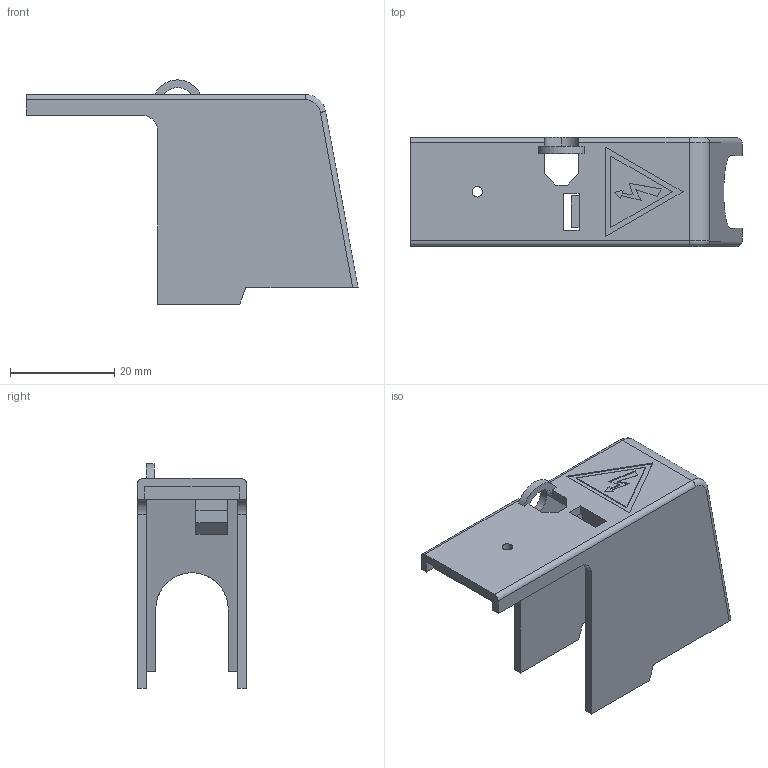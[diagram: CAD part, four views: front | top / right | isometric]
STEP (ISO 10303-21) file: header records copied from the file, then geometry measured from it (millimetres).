
FILE_DESCRIPTION (( 'STEP AP203' ), '1' );
FILE_NAME ('NF2-125TS1.STEP', '2024-03-01T06:37:41', ( 'wzjh' ), ( '' ), 'SwSTEP 2.0', 'SolidWorks 2023', '' );
FILE_SCHEMA (( 'CONFIG_CONTROL_DESIGN' ));
Length unit declared in the file: millimetre
Products named in the file (1): NF2-125TS1
Bounding box: 63.82 x 20.9 x 43.1 mm (x, y, z)
Volume: 7302.7 mm3; surface area: 9155.7 mm2
Topology: 1 solids, 1 shells, 83 faces, 240 edges, 158 vertices
Faces by surface type: plane 65, cylinder 16, torus 2
Entity records: 2789 total; most frequent: CARTESIAN_POINT 494, ORIENTED_EDGE 480, DIRECTION 434, EDGE_CURVE 240, VECTOR 206, LINE 206, VERTEX_POINT 158, AXIS2_PLACEMENT_3D 114
